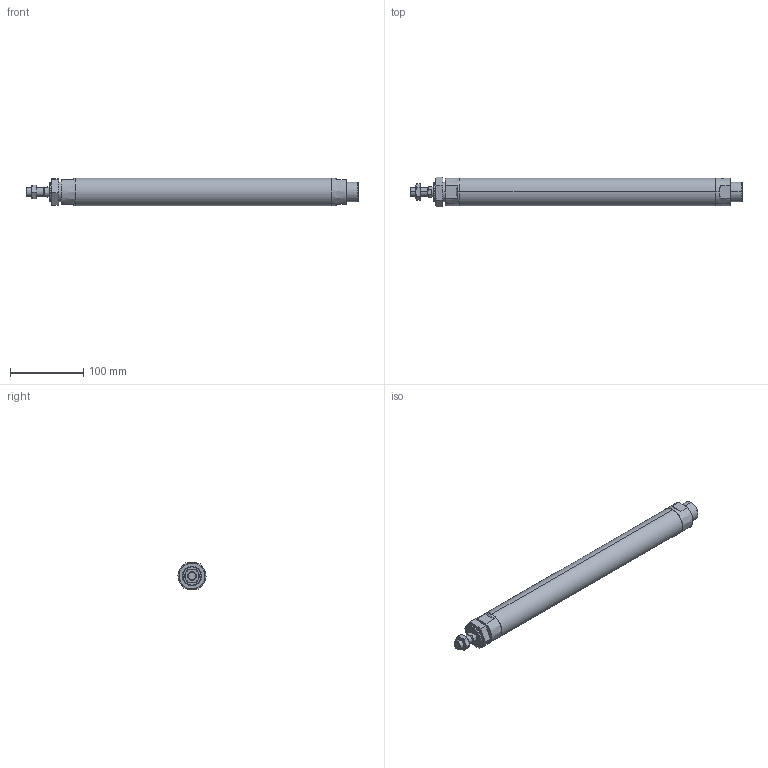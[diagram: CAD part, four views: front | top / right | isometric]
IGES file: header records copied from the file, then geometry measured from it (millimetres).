
Start section: SolidWorks IGES file using analytic representation for surfaces
Global section: file name: C:\Users\Toshiba\Desktop\J#2-32-300-N.IGS; native system: SolidWorks 2014; preprocessor: SolidWorks 2014; author: Toshiba; date: 160308.155212; units: millimetre
Bounding box: 453 x 40.33 x 38 mm (x, y, z)
Surface area: 57459.4 mm2 (no closed solid volume)
Topology: 0 solids, 0 shells, 94 faces, 1652 edges, 1648 vertices
Faces by surface type: bspline 57, revolution 37
